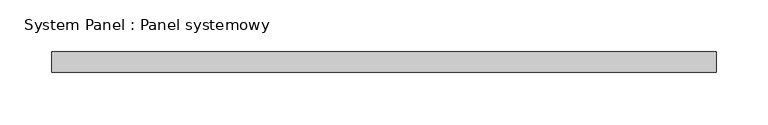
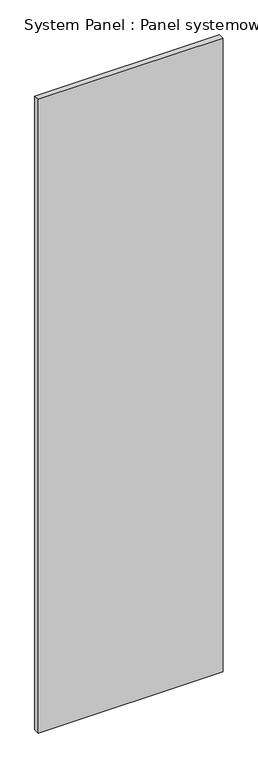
"""IFC4 building model written with IfcOpenShell, lengths in millimetres: plate geometry, System Panel : Panel systemowy."""

from ifc_helpers import new_model, si_unit, origin, origin_with_axes, place, context, project, spatial, polyline, outline, extrude, source, transform, mapped, element, save


def system_panel_panel_systemowy_0fd5cbb9(model_context):
    return source(origin(), model_context, "Body", "SweptSolid", [
        extrude(outline(polyline([(320.8333333, -10.0), (-320.8333333, -10.0), (-320.8333333, 10.0), (320.8333333, 10.0), (320.8333333, -10.0)])), origin_with_axes(), (0.0, 0.0, 1.0), 2325.0),
    ])


if __name__ == "__main__":
    model = new_model("IFC4")
    model_context = context("Model", 3, world=origin())
    ifc_project = project(units=[si_unit("LENGTHUNIT", "METRE", prefix="MILLI")], contexts=[model_context])
    site = spatial("IfcSite", under=ifc_project)
    building = spatial("IfcBuilding", under=site)
    placement = place(None, origin())
    system_panel_panel_systemowy_shape = system_panel_panel_systemowy_0fd5cbb9(model_context)
    element("IfcPlate", 1, ObjectType="System Panel : Panel systemowy", at=placement, inside=building, context=model_context, shape_type="MappedRepresentation", body=[
        mapped(system_panel_panel_systemowy_shape, transform((0.0, 0.0, 0.0), x_axis=(1.0, 0.0, 0.0), y_axis=(0.0, 1.0, 0.0), z_axis=(0.0, 0.0, 1.0))),
    ])
    save(model, "model.ifc")
